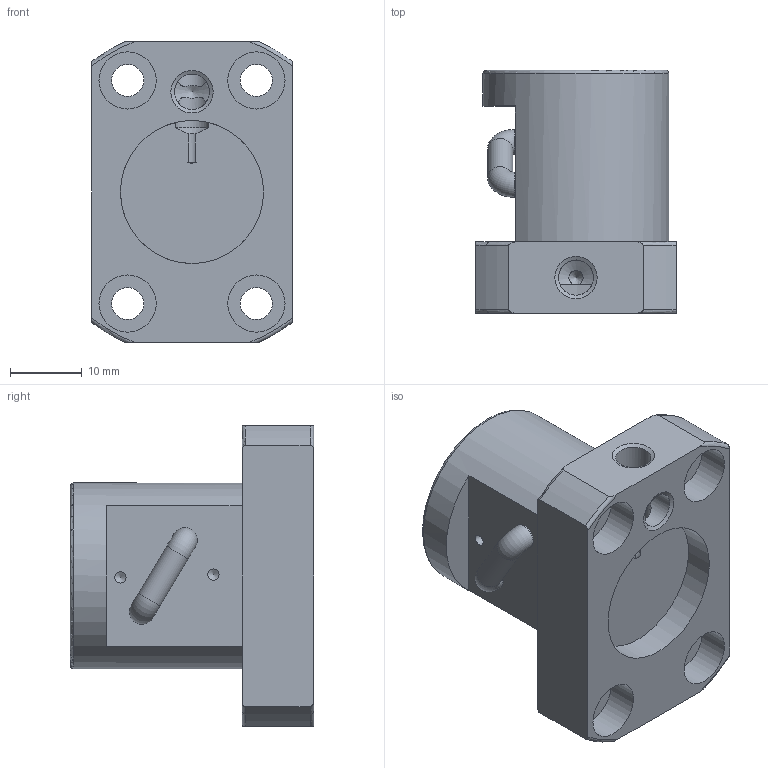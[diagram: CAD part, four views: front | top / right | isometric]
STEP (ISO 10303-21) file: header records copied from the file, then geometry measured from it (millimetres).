
FILE_DESCRIPTION(/* description */ ('Unknown'),/* implementation_level */ '2;1');
FILE_NAME(/* name */ '1004',/* time_stamp */ '2020-11-06T17:19:39+08:00',/* author */ ('Unknown'),/* organization */ ('Unknown'),/* preprocessor_version */ 'ST-DEVELOPER v16.7',/* originating_system */ 'DEX',/* authorisation */ $);
FILE_SCHEMA (('AUTOMOTIVE_DESIGN {1 0 10303 214 3 1 1}'));
Length unit declared in the file: millimetre
Products named in the file (1): 1004
Bounding box: 28 x 34 x 42 mm (x, y, z)
Volume: 19123 mm3; surface area: 7144.2 mm2
Topology: 1 solids, 1 shells, 62 faces, 165 edges, 108 vertices
Faces by surface type: cylinder 29, plane 15, torus 11, cone 7
Full cylindrical faces by diameter (mm): 1.567 x2, 3.5 x3, 4.5 x4, 4.917 x4, 8 x4, 20 x2, 26 x1
Entity records: 3178 total; most frequent: CARTESIAN_POINT 1349, DIRECTION 294, ORIENTED_EDGE 236, AXIS2_PLACEMENT_3D 135, EDGE_CURVE 118, FACE_BOUND 112, EDGE_LOOP 108, VERTEX_POINT 94
